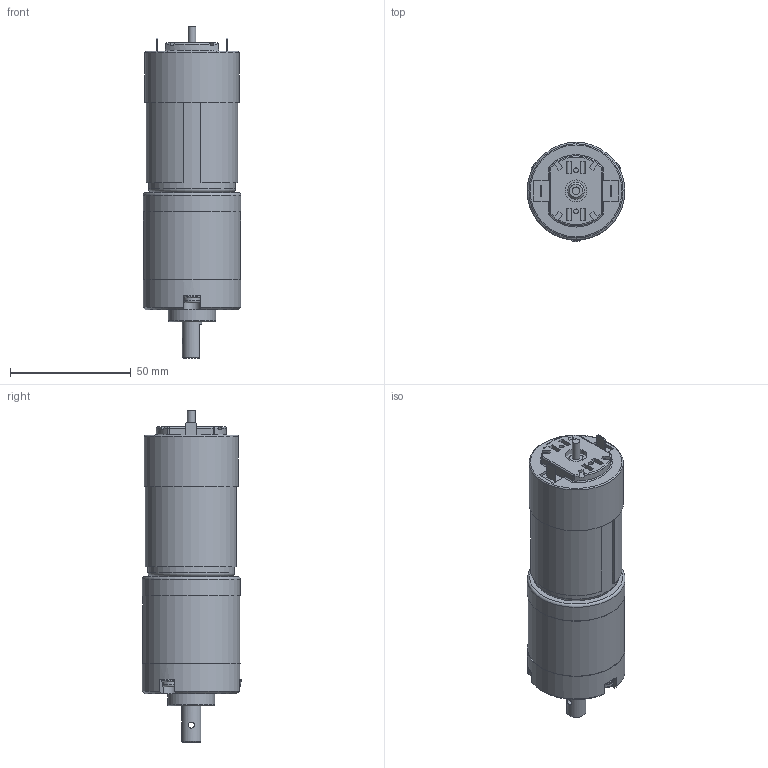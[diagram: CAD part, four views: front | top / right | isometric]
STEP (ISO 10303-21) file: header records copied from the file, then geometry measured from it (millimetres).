
FILE_DESCRIPTION(/* description */ (''),/* implementation_level */ '2;1');
FILE_NAME(/* name */ 'E192-4stadi',/* time_stamp */ '2010-02-18T10:48:20+01:00',/* author */ (''),/* organization */ (''),/* preprocessor_version */ 'ST-DEVELOPER v9',/* originating_system */ 'UGS - NX 3.0',/* authorisation */ '');
FILE_SCHEMA (('AUTOMOTIVE_DESIGN { 1 0 10303 214 1 1 1 1 }'));
Length unit declared in the file: millimetre
Products named in the file (1): Edc385B415fu
Bounding box: 40.5 x 41.15 x 137.5 mm (x, y, z)
Volume: 96930.2 mm3; surface area: 47516.6 mm2
Topology: 18 solids, 18 shells, 390 faces, 938 edges, 615 vertices
Faces by surface type: plane 212, cylinder 114, torus 29, cone 23, bspline 12
Full cylindrical faces by diameter (mm): 2 x2, 2.459 x3, 2.5 x1, 3.175 x2, 3.2 x6, 3.45 x3, 3.838 x3, 4.3 x2, 6.7 x3, 7.6 x2, 8 x5, 9 x1, 13 x2, 15 x1, 15.08 x1, 16 x2, 19.5 x1, 21 x1, 35.8 x1, 37.9 x1, 39 x1, 40.2 x1, 40.5 x2
Entity records: 11997 total; most frequent: CARTESIAN_POINT 2975, DIRECTION 1839, ORIENTED_EDGE 1720, EDGE_CURVE 860, AXIS2_PLACEMENT_3D 713, VERTEX_POINT 603, EDGE_LOOP 527, LINE 413
